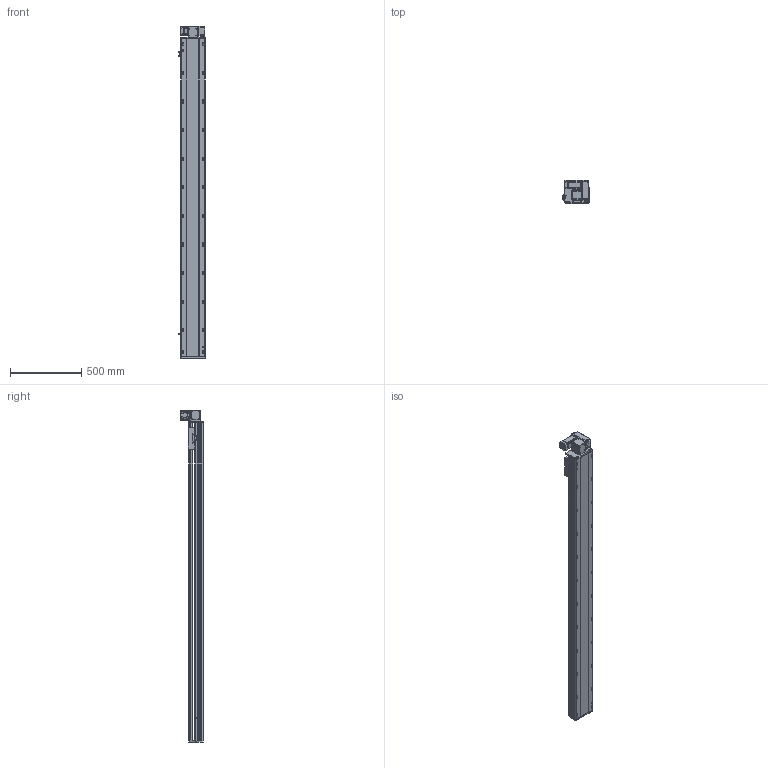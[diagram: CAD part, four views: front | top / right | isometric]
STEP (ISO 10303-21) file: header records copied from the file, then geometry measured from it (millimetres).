
FILE_DESCRIPTION (( 'STEP AP214' ), '1' );
FILE_NAME ('RTB17S-XX-1950-RW-M40-C4.STEP', '2025-12-11T09:07:19', ( '' ), ( '' ), 'SwSTEP 2.0', 'SolidWorks 2018', '' );
FILE_SCHEMA (( 'AUTOMOTIVE_DESIGN' ));
Length unit declared in the file: millimetre
Products named in the file (14): RTB14-L-005P--轴承塑胶压盖^RTB17S-RW-皮带座装配-400W_RTB17S-XX-XX-RW-M40-C4; RMP17S-L-014-T20--々湍釱^RTB17S-RW-々湍釱蚾饜-400W_RTB17S-XX-XX-RW-M40-C4; RTB14-L-017P^RTB17S-RW-々湍釱蚾饜-400W_RTB17S-XX-XX-RW-M40-C4; OMRON EE-SX672 传感器^RTB17S-XX-XX-RW-M40-C4; RTH13-BL-012覜茼え俋离^RTB17S-XX-XX-RW-M40-C4; RTB17S-L-007奻裔^RTB17S-XX-XX-RW-M40-C4; RTB14-L-008-M20--萇儂啣^RTB17S-RW-々湍釱蚾饜-400W_RTB17S-XX-XX-RW-M40-C4; RTB14-L-018P^RTB17S-RW-々湍釱蚾饜-400W_RTB17S-XX-XX-RW-M40-C4; RTB17S-XX-1950-RW-M40-C4; RTB17-R-011菁釱^RTB17S-XX-XX-RW-M40-C4; 400W侜督萇儂^RTB17S-XX-XX-RW-M40-C4; RTB17S-RW-々湍釱蚾饜-400W^RTB17S-XX-XX-RW-M40-C4; RTB17S-L-004佪裝蹟譫蟀諉釱^RTB17S-XX-XX-RW-M40-C4; RTB17S-L-001耜醱啣^RTB17S-XX-XX-RW-M40-C4
Assembly tree (16 placements, depth 3):
  RTB17S-XX-1950-RW-M40-C4
    RTB17-R-011菁釱^RTB17S-XX-XX-RW-M40-C4
    RTB17S-L-007奻裔^RTB17S-XX-XX-RW-M40-C4
    OMRON EE-SX672 传感器^RTB17S-XX-XX-RW-M40-C4  x3
    RTB17S-L-001耜醱啣^RTB17S-XX-XX-RW-M40-C4
    400W侜督萇儂^RTB17S-XX-XX-RW-M40-C4
    RTB17S-L-004佪裝蹟譫蟀諉釱^RTB17S-XX-XX-RW-M40-C4
    RTH13-BL-012覜茼え俋离^RTB17S-XX-XX-RW-M40-C4
    RTB17S-RW-々湍釱蚾饜-400W^RTB17S-XX-XX-RW-M40-C4
      RMP17S-L-014-T20--々湍釱^RTB17S-RW-々湍釱蚾饜-400W_RTB17S-XX-XX-RW-M40-C4
      RTB14-L-005P--轴承塑胶压盖^RTB17S-RW-皮带座装配-400W_RTB17S-XX-XX-RW-M40-C4
      RTB14-L-008-M20--萇儂啣^RTB17S-RW-々湍釱蚾饜-400W_RTB17S-XX-XX-RW-M40-C4
      RTB14-L-017P^RTB17S-RW-々湍釱蚾饜-400W_RTB17S-XX-XX-RW-M40-C4  x2
      RTB14-L-018P^RTB17S-RW-々湍釱蚾饜-400W_RTB17S-XX-XX-RW-M40-C4
Bounding box: 183.5 x 160.5 x 2322.5 mm (x, y, z)
Volume: 20121525.5 mm3; surface area: 2342891.7 mm2
Topology: 15 solids, 15 shells, 2285 faces, 6357 edges, 4149 vertices
Faces by surface type: plane 1078, cylinder 759, bspline 301, cone 139, torus 8
Entity records: 66473 total; most frequent: CARTESIAN_POINT 18762, ORIENTED_EDGE 9558, DIRECTION 8846, EDGE_CURVE 4779, VERTEX_POINT 3137, AXIS2_PLACEMENT_3D 3067, LINE 2712, VECTOR 2712
